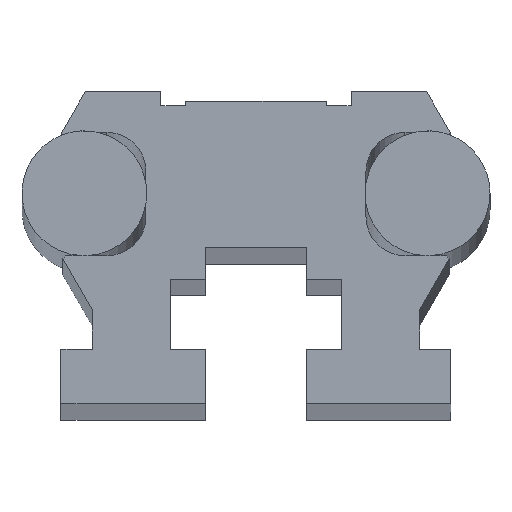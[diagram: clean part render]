
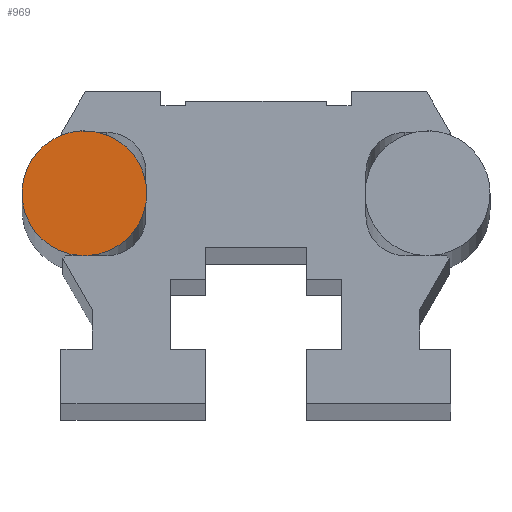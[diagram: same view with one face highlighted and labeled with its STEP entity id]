
A CAD part, top view. The second image highlights one B-rep face of the part: STEP entity #969.
In plain terms, the highlighted planar face has unit normal (0, 0, 1).
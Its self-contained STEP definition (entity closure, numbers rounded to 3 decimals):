
#155 = VERTEX_POINT ( 'NONE', #1248 ) ;
#157 = EDGE_CURVE ( 'NONE', #187, #155, #1247, .T. ) ;
#170 = VERTEX_POINT ( 'NONE', #1279 ) ;
#185 = EDGE_CURVE ( 'NONE', #186, #187, #1255, .T. ) ;
#186 = VERTEX_POINT ( 'NONE', #1348 ) ;
#187 = VERTEX_POINT ( 'NONE', #1347 ) ;
#235 = VERTEX_POINT ( 'NONE', #1418 ) ;
#237 = EDGE_CURVE ( 'NONE', #235, #263, #1417, .T. ) ;
#263 = VERTEX_POINT ( 'NONE', #1390 ) ;
#305 = EDGE_CURVE ( 'NONE', #306, #170, #1670, .T. ) ;
#306 = VERTEX_POINT ( 'NONE', #1665 ) ;
#683 = EDGE_CURVE ( 'NONE', #170, #186, #2029, .T. ) ;
#958 = ORIENTED_EDGE ( 'NONE', *, *, #237, .F. ) ;
#959 = ORIENTED_EDGE ( 'NONE', *, *, #968, .T. ) ;
#960 = ORIENTED_EDGE ( 'NONE', *, *, #305, .T. ) ;
#961 = ORIENTED_EDGE ( 'NONE', *, *, #683, .T. ) ;
#962 = ORIENTED_EDGE ( 'NONE', *, *, #185, .T. ) ;
#968 = EDGE_CURVE ( 'NONE', #235, #306, #2402, .T. ) ;
#969 = ADVANCED_FACE ( 'NONE', ( #2397 ), #2396, .T. ) ;
#970 = EDGE_LOOP ( 'NONE', ( #971, #972, #958, #959, #960, #961, #962 ) ) ;
#971 = ORIENTED_EDGE ( 'NONE', *, *, #157, .T. ) ;
#972 = ORIENTED_EDGE ( 'NONE', *, *, #984, .T. ) ;
#984 = EDGE_CURVE ( 'NONE', #155, #263, #2380, .T. ) ;
#1243 = DIRECTION ( 'NONE',  ( 1., 0., 0. ) ) ;
#1244 = DIRECTION ( 'NONE',  ( 0., 0., 1. ) ) ;
#1245 = CARTESIAN_POINT ( 'NONE',  ( -11., 13.5, -1.5 ) ) ;
#1246 = AXIS2_PLACEMENT_3D ( 'NONE', #1245, #1244, #1243 ) ;
#1247 = CIRCLE ( 'NONE', #1246, 4. ) ;
#1248 = CARTESIAN_POINT ( 'NONE',  ( -10.111, 17.4, -1.5 ) ) ;
#1252 = DIRECTION ( 'NONE',  ( 1., 0., 0. ) ) ;
#1253 = DIRECTION ( 'NONE',  ( 0., 0., 1. ) ) ;
#1254 = AXIS2_PLACEMENT_3D ( 'NONE', #1261, #1253, #1252 ) ;
#1255 = CIRCLE ( 'NONE', #1254, 4. ) ;
#1261 = CARTESIAN_POINT ( 'NONE',  ( -11., 13.5, -1.5 ) ) ;
#1279 = CARTESIAN_POINT ( 'NONE',  ( -7.05, 12.87, -1.5 ) ) ;
#1317 = DIRECTION ( 'NONE',  ( 1., 0., 0. ) ) ;
#1347 = CARTESIAN_POINT ( 'NONE',  ( -7.05, 14.13, -1.5 ) ) ;
#1348 = CARTESIAN_POINT ( 'NONE',  ( -7., 13.5, -1.5 ) ) ;
#1390 = CARTESIAN_POINT ( 'NONE',  ( -12.324, 17.275, -1.5 ) ) ;
#1414 = DIRECTION ( 'NONE',  ( 0., 0., -1. ) ) ;
#1415 = CARTESIAN_POINT ( 'NONE',  ( -11., 13.5, -1.5 ) ) ;
#1416 = AXIS2_PLACEMENT_3D ( 'NONE', #1415, #1414, #1317 ) ;
#1417 = CIRCLE ( 'NONE', #1416, 4. ) ;
#1418 = CARTESIAN_POINT ( 'NONE',  ( -11.25, 9.508, -1.5 ) ) ;
#1665 = CARTESIAN_POINT ( 'NONE',  ( -10.75, 9.508, -1.5 ) ) ;
#1666 = DIRECTION ( 'NONE',  ( 1., 0., 0. ) ) ;
#1667 = DIRECTION ( 'NONE',  ( 0., 0., 1. ) ) ;
#1668 = CARTESIAN_POINT ( 'NONE',  ( -11., 13.5, -1.5 ) ) ;
#1669 = AXIS2_PLACEMENT_3D ( 'NONE', #1668, #1667, #1666 ) ;
#1670 = CIRCLE ( 'NONE', #1669, 4. ) ;
#2029 = CIRCLE ( 'NONE', #2085, 4. ) ;
#2082 = DIRECTION ( 'NONE',  ( 1., 0., 0. ) ) ;
#2083 = DIRECTION ( 'NONE',  ( 0., 0., 1. ) ) ;
#2084 = CARTESIAN_POINT ( 'NONE',  ( -11., 13.5, -1.5 ) ) ;
#2085 = AXIS2_PLACEMENT_3D ( 'NONE', #2084, #2083, #2082 ) ;
#2377 = DIRECTION ( 'NONE',  ( 1., 0., 0. ) ) ;
#2378 = DIRECTION ( 'NONE',  ( 0., 0., 1. ) ) ;
#2379 = AXIS2_PLACEMENT_3D ( 'NONE', #2385, #2378, #2377 ) ;
#2380 = CIRCLE ( 'NONE', #2379, 4. ) ;
#2385 = CARTESIAN_POINT ( 'NONE',  ( -11., 13.5, -1.5 ) ) ;
#2392 = DIRECTION ( 'NONE',  ( 1., 0., 0. ) ) ;
#2393 = DIRECTION ( 'NONE',  ( 0., 0., 1. ) ) ;
#2394 = CARTESIAN_POINT ( 'NONE',  ( -11., 13.5, -1.5 ) ) ;
#2395 = AXIS2_PLACEMENT_3D ( 'NONE', #2394, #2393, #2392 ) ;
#2396 = PLANE ( 'NONE',  #2395 ) ;
#2397 = FACE_OUTER_BOUND ( 'NONE', #970, .T. ) ;
#2398 = DIRECTION ( 'NONE',  ( 1., 0., 0. ) ) ;
#2399 = DIRECTION ( 'NONE',  ( 0., 0., 1. ) ) ;
#2400 = CARTESIAN_POINT ( 'NONE',  ( -11., 13.5, -1.5 ) ) ;
#2401 = AXIS2_PLACEMENT_3D ( 'NONE', #2400, #2399, #2398 ) ;
#2402 = CIRCLE ( 'NONE', #2401, 4. ) ;
